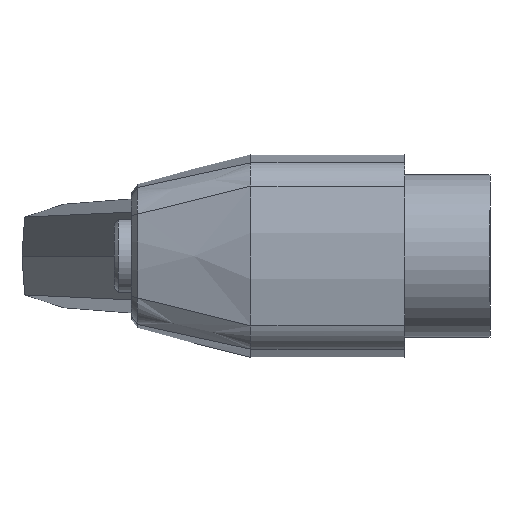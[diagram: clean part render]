
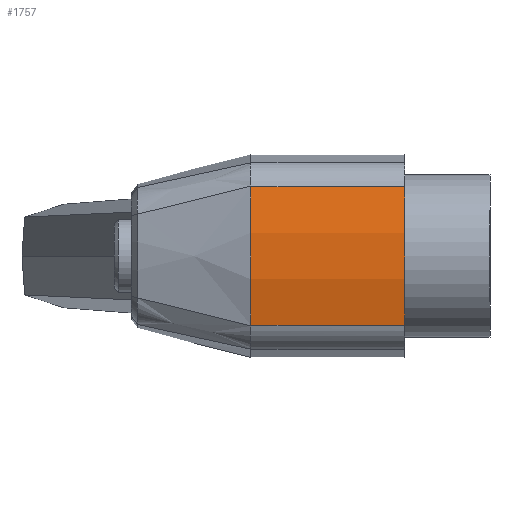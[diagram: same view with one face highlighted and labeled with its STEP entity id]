
A CAD part, left-side view. The second image highlights one B-rep face of the part: STEP entity #1757.
In plain terms, the highlighted cylindrical face has radius 31.377 mm (diameter 62.754 mm), a partial arc.
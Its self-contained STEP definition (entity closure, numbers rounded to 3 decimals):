
#4 = CARTESIAN_POINT ( 'NONE',  ( 19.377, 18., 0. ) ) ;
#181 = EDGE_CURVE ( 'NONE', #1639, #436, #2189, .T. ) ;
#200 = EDGE_CURVE ( 'NONE', #509, #1639, #2273, .T. ) ;
#436 = VERTEX_POINT ( 'NONE', #1650 ) ;
#484 = DIRECTION ( 'NONE',  ( 0., 0., 1. ) ) ;
#509 = VERTEX_POINT ( 'NONE', #2097 ) ;
#536 = CARTESIAN_POINT ( 'NONE',  ( -10.935, 18., -8.104 ) ) ;
#651 = LINE ( 'NONE', #682, #2316 ) ;
#682 = CARTESIAN_POINT ( 'NONE',  ( -10.935, 18., 8.104 ) ) ;
#746 = CARTESIAN_POINT ( 'NONE',  ( -10.935, 18., 8.104 ) ) ;
#794 = DIRECTION ( 'NONE',  ( 0., -1., 0. ) ) ;
#822 = CIRCLE ( 'NONE', #2111, 31.377 ) ;
#898 = DIRECTION ( 'NONE',  ( 0., 1., 0. ) ) ;
#1069 = CARTESIAN_POINT ( 'NONE',  ( -10.935, 0., -8.104 ) ) ;
#1078 = CARTESIAN_POINT ( 'NONE',  ( 19.377, 0., 0. ) ) ;
#1192 = DIRECTION ( 'NONE',  ( 0., -1., 0. ) ) ;
#1290 = VECTOR ( 'NONE', #1192, 1000. ) ;
#1292 = CARTESIAN_POINT ( 'NONE',  ( 19.377, 18., 0. ) ) ;
#1301 = EDGE_CURVE ( 'NONE', #509, #2224, #822, .T. ) ;
#1335 = EDGE_LOOP ( 'NONE', ( #2328, #2007, #1360, #2463 ) ) ;
#1360 = ORIENTED_EDGE ( 'NONE', *, *, #181, .T. ) ;
#1416 = DIRECTION ( 'NONE',  ( 0., 1., 0. ) ) ;
#1513 = AXIS2_PLACEMENT_3D ( 'NONE', #4, #794, #2347 ) ;
#1548 = FACE_OUTER_BOUND ( 'NONE', #1335, .T. ) ;
#1639 = VERTEX_POINT ( 'NONE', #1069 ) ;
#1650 = CARTESIAN_POINT ( 'NONE',  ( -10.935, 0., 8.104 ) ) ;
#1755 = CYLINDRICAL_SURFACE ( 'NONE', #1513, 31.377 ) ;
#1757 = ADVANCED_FACE ( 'NONE', ( #1548 ), #1755, .T. ) ;
#1867 = DIRECTION ( 'NONE',  ( 0., 1., 0. ) ) ;
#2007 = ORIENTED_EDGE ( 'NONE', *, *, #200, .T. ) ;
#2097 = CARTESIAN_POINT ( 'NONE',  ( -10.935, 18., -8.104 ) ) ;
#2111 = AXIS2_PLACEMENT_3D ( 'NONE', #1292, #1867, #2447 ) ;
#2135 = EDGE_CURVE ( 'NONE', #436, #2224, #651, .T. ) ;
#2189 = CIRCLE ( 'NONE', #2473, 31.377 ) ;
#2224 = VERTEX_POINT ( 'NONE', #746 ) ;
#2273 = LINE ( 'NONE', #536, #1290 ) ;
#2316 = VECTOR ( 'NONE', #1416, 1000. ) ;
#2328 = ORIENTED_EDGE ( 'NONE', *, *, #1301, .F. ) ;
#2347 = DIRECTION ( 'NONE',  ( 0., 0., -1. ) ) ;
#2447 = DIRECTION ( 'NONE',  ( 0., 0., -1. ) ) ;
#2463 = ORIENTED_EDGE ( 'NONE', *, *, #2135, .T. ) ;
#2473 = AXIS2_PLACEMENT_3D ( 'NONE', #1078, #898, #484 ) ;
